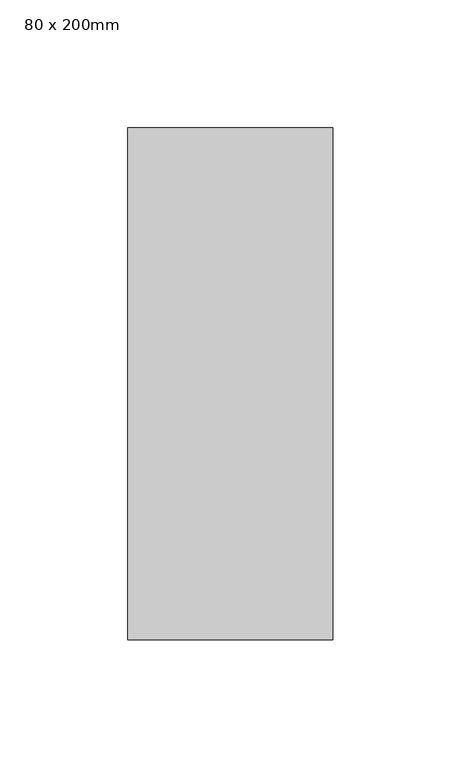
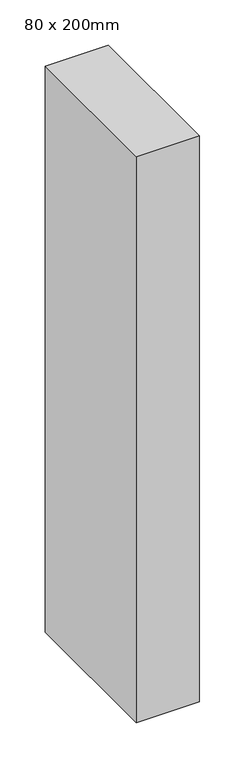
"""IFC4 building model written with IfcOpenShell, lengths in millimetres: member geometry, 矩形竖梃 : 80 x 200mm."""

from ifc_helpers import new_model, si_unit, frame, origin, place, context, project, spatial, polyline, outline, extrude, source, transform, mapped, element, save


def member_80_x_200mm_05e543a0(model_context):
    return source(origin(), model_context, "Body", "SweptSolid", [
        extrude(outline(polyline([(0.0, 100.0), (0.0, -100.0), (-80.0, -100.0), (-80.0, 100.0), (0.0, 100.0)])), frame((0.0, 0.0, -760.0000002), z_axis=(0.0, 0.0, 1.0), x_axis=(1.0, 0.0, 0.0)), (0.0, 0.0, 1.0), 760.0000002),
    ])


if __name__ == "__main__":
    model = new_model("IFC4")
    model_context = context("Model", 3, world=origin())
    ifc_project = project(units=[si_unit("LENGTHUNIT", "METRE", prefix="MILLI")], contexts=[model_context])
    site = spatial("IfcSite", under=ifc_project)
    building = spatial("IfcBuilding", under=site)
    placement = place(None, origin())
    member_80_x_200mm_shape = member_80_x_200mm_05e543a0(model_context)
    element("IfcMember", 1, ObjectType="矩形竖梃 : 80 x 200mm", at=placement, inside=building, context=model_context, shape_type="MappedRepresentation", body=[
        mapped(member_80_x_200mm_shape, transform((0.0, 0.0, 0.0), x_axis=(1.0, 0.0, 0.0), y_axis=(0.0, 1.0, 0.0), z_axis=(0.0, 0.0, 1.0))),
    ])
    save(model, "model.ifc")
